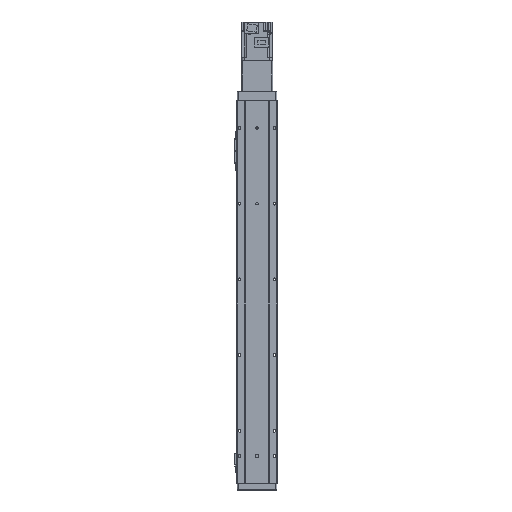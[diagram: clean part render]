
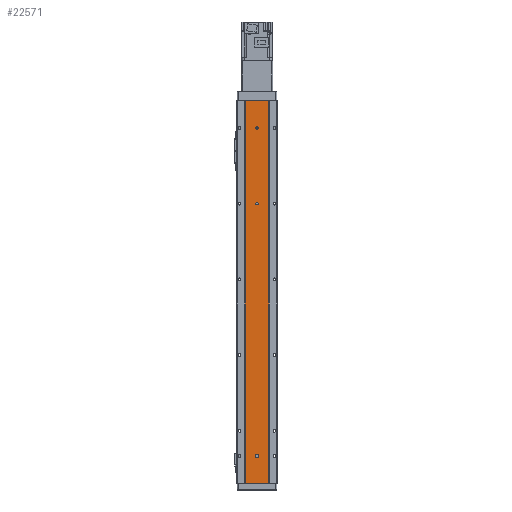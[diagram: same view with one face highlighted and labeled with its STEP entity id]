
A CAD part, front view. The second image highlights one B-rep face of the part: STEP entity #22571.
In plain terms, the highlighted planar face has unit normal (0, -1, 0).
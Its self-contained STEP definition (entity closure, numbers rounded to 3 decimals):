
#3890 = FACE_BOUND ( 'NONE', #28471, .T. ) ;
#3893 = FACE_OUTER_BOUND ( 'NONE', #28475, .T. ) ;
#3896 = FACE_BOUND ( 'NONE', #28465, .T. ) ;
#3897 = FACE_BOUND ( 'NONE', #28470, .T. ) ;
#9000 = CARTESIAN_POINT ( 'NONE',  ( 0., 0.5, -57. ) ) ;
#9006 = CARTESIAN_POINT ( 'NONE',  ( 2.5, 0.5, -705.5 ) ) ;
#9017 = CARTESIAN_POINT ( 'NONE',  ( 0., 0.5, -202. ) ) ;
#9032 = CARTESIAN_POINT ( 'NONE',  ( 0., 0.5, -708. ) ) ;
#9043 = CARTESIAN_POINT ( 'NONE',  ( 0., 0.5, -207. ) ) ;
#9060 = CARTESIAN_POINT ( 'NONE',  ( 0., 0.5, -52. ) ) ;
#9175 = CARTESIAN_POINT ( 'NONE',  ( -2.5, 0.5, -705.5 ) ) ;
#9208 = CARTESIAN_POINT ( 'NONE',  ( 2.5, 0.5, -703.5 ) ) ;
#9221 = CARTESIAN_POINT ( 'NONE',  ( -2.5, 0.5, -703.5 ) ) ;
#10312 = CARTESIAN_POINT ( 'NONE',  ( -23., 0.5, 0. ) ) ;
#10367 = CARTESIAN_POINT ( 'NONE',  ( -23., 0.5, -759. ) ) ;
#10399 = CARTESIAN_POINT ( 'NONE',  ( 23., 0.5, 0. ) ) ;
#10423 = CARTESIAN_POINT ( 'NONE',  ( 23., 0.5, -759. ) ) ;
#11952 = CARTESIAN_POINT ( 'NONE',  ( 0., 0.5, -703.5 ) ) ;
#11963 = DIRECTION ( 'NONE',  ( 0., -1., 0. ) ) ;
#11966 = DIRECTION ( 'NONE',  ( 1., 0., 0. ) ) ;
#11988 = DIRECTION ( 'NONE',  ( 1., 0., 0. ) ) ;
#11995 = CARTESIAN_POINT ( 'NONE',  ( 0., 0.5, -204.5 ) ) ;
#12006 = DIRECTION ( 'NONE',  ( 0., 0., 1. ) ) ;
#12007 = DIRECTION ( 'NONE',  ( 0., 0., 1. ) ) ;
#12008 = CARTESIAN_POINT ( 'NONE',  ( -23., 0.5, -759. ) ) ;
#12020 = DIRECTION ( 'NONE',  ( 0., -1., 0. ) ) ;
#12022 = CARTESIAN_POINT ( 'NONE',  ( 23., 0.5, -759. ) ) ;
#12040 = CARTESIAN_POINT ( 'NONE',  ( -2.5, 0.5, -759. ) ) ;
#12056 = DIRECTION ( 'NONE',  ( 0., 0., -1. ) ) ;
#12077 = CARTESIAN_POINT ( 'NONE',  ( 0., 0.5, -54.5 ) ) ;
#12082 = DIRECTION ( 'NONE',  ( 0., 0., 1. ) ) ;
#12088 = DIRECTION ( 'NONE',  ( 0., -1., 0. ) ) ;
#12095 = DIRECTION ( 'NONE',  ( 1., 0., 0. ) ) ;
#12110 = CARTESIAN_POINT ( 'NONE',  ( 2.5, 0.5, -759. ) ) ;
#12135 = CARTESIAN_POINT ( 'NONE',  ( 0., 0.5, -705.5 ) ) ;
#12151 = DIRECTION ( 'NONE',  ( 0., -1., 0. ) ) ;
#12152 = DIRECTION ( 'NONE',  ( 1., 0., 0. ) ) ;
#13184 = LINE ( 'NONE', #12008, #13193 ) ;
#13193 = VECTOR ( 'NONE', #12007, 1000. ) ;
#13226 = VECTOR ( 'NONE', #12006, 1000. ) ;
#13261 = LINE ( 'NONE', #12022, #13226 ) ;
#13278 = CIRCLE ( 'NONE', #31218, 2.5 ) ;
#13283 = CIRCLE ( 'NONE', #31200, 2.5 ) ;
#13318 = CIRCLE ( 'NONE', #31226, 2.5 ) ;
#13330 = VECTOR ( 'NONE', #12082, 1000. ) ;
#13349 = LINE ( 'NONE', #12040, #13366 ) ;
#13354 = LINE ( 'NONE', #12110, #13330 ) ;
#13366 = VECTOR ( 'NONE', #12056, 1000. ) ;
#13389 = CIRCLE ( 'NONE', #31247, 2.5 ) ;
#18744 = EDGE_CURVE ( 'NONE', #23693, #23671, #37986, .T. ) ;
#18783 = EDGE_CURVE ( 'NONE', #23707, #23698, #37994, .T. ) ;
#18797 = EDGE_CURVE ( 'NONE', #23749, #23700, #38127, .T. ) ;
#18912 = EDGE_CURVE ( 'NONE', #33459, #33498, #38426, .T. ) ;
#18932 = EDGE_CURVE ( 'NONE', #33470, #33521, #38443, .T. ) ;
#22571 = ADVANCED_FACE ( 'NONE', ( #3897, #3890, #3896, #3893 ), #46586, .T. ) ;
#23671 = VERTEX_POINT ( 'NONE', #9006 ) ;
#23693 = VERTEX_POINT ( 'NONE', #9032 ) ;
#23698 = VERTEX_POINT ( 'NONE', #9043 ) ;
#23700 = VERTEX_POINT ( 'NONE', #9000 ) ;
#23707 = VERTEX_POINT ( 'NONE', #9017 ) ;
#23749 = VERTEX_POINT ( 'NONE', #9060 ) ;
#26783 = VERTEX_POINT ( 'NONE', #9175 ) ;
#26808 = VERTEX_POINT ( 'NONE', #9221 ) ;
#26825 = VERTEX_POINT ( 'NONE', #9208 ) ;
#27719 = ORIENTED_EDGE ( 'NONE', *, *, #35704, .T. ) ;
#27742 = ORIENTED_EDGE ( 'NONE', *, *, #35709, .F. ) ;
#27750 = ORIENTED_EDGE ( 'NONE', *, *, #18912, .T. ) ;
#27758 = ORIENTED_EDGE ( 'NONE', *, *, #35739, .F. ) ;
#27760 = ORIENTED_EDGE ( 'NONE', *, *, #35715, .F. ) ;
#27761 = ORIENTED_EDGE ( 'NONE', *, *, #18783, .F. ) ;
#27764 = ORIENTED_EDGE ( 'NONE', *, *, #18932, .F. ) ;
#27767 = ORIENTED_EDGE ( 'NONE', *, *, #35699, .F. ) ;
#27791 = ORIENTED_EDGE ( 'NONE', *, *, #35757, .F. ) ;
#27792 = ORIENTED_EDGE ( 'NONE', *, *, #18744, .F. ) ;
#27797 = ORIENTED_EDGE ( 'NONE', *, *, #35758, .F. ) ;
#27798 = ORIENTED_EDGE ( 'NONE', *, *, #18797, .F. ) ;
#27799 = ORIENTED_EDGE ( 'NONE', *, *, #35749, .F. ) ;
#28465 = EDGE_LOOP ( 'NONE', ( #27799, #27798 ) ) ;
#28470 = EDGE_LOOP ( 'NONE', ( #27797, #27758, #27767, #27791, #27792 ) ) ;
#28471 = EDGE_LOOP ( 'NONE', ( #27760, #27761 ) ) ;
#28475 = EDGE_LOOP ( 'NONE', ( #27764, #27742, #27750, #27719 ) ) ;
#30018 = AXIS2_PLACEMENT_3D ( 'NONE', #46538, #46619, #46599 ) ;
#31200 = AXIS2_PLACEMENT_3D ( 'NONE', #11952, #11963, #11966 ) ;
#31218 = AXIS2_PLACEMENT_3D ( 'NONE', #11995, #12020, #11988 ) ;
#31226 = AXIS2_PLACEMENT_3D ( 'NONE', #12077, #12088, #12095 ) ;
#31247 = AXIS2_PLACEMENT_3D ( 'NONE', #12135, #12151, #12152 ) ;
#33459 = VERTEX_POINT ( 'NONE', #10367 ) ;
#33470 = VERTEX_POINT ( 'NONE', #10312 ) ;
#33498 = VERTEX_POINT ( 'NONE', #10423 ) ;
#33521 = VERTEX_POINT ( 'NONE', #10399 ) ;
#34527 = DIRECTION ( 'NONE',  ( 0., -1., 0. ) ) ;
#34529 = DIRECTION ( 'NONE',  ( 1., 0., 0. ) ) ;
#34540 = CARTESIAN_POINT ( 'NONE',  ( 0., 0.5, -705.5 ) ) ;
#34607 = CARTESIAN_POINT ( 'NONE',  ( 0., 0.5, -204.5 ) ) ;
#34629 = DIRECTION ( 'NONE',  ( 1., 0., 0. ) ) ;
#34636 = DIRECTION ( 'NONE',  ( 0., -1., 0. ) ) ;
#34651 = DIRECTION ( 'NONE',  ( 1., 0., 0. ) ) ;
#34673 = DIRECTION ( 'NONE',  ( 0., -1., 0. ) ) ;
#34674 = CARTESIAN_POINT ( 'NONE',  ( 0., 0.5, -54.5 ) ) ;
#34968 = DIRECTION ( 'NONE',  ( 1., 0., 0. ) ) ;
#34991 = CARTESIAN_POINT ( 'NONE',  ( -23., 0.5, -759. ) ) ;
#35010 = DIRECTION ( 'NONE',  ( 1., 0., 0. ) ) ;
#35016 = CARTESIAN_POINT ( 'NONE',  ( -23., 0.5, 0. ) ) ;
#35699 = EDGE_CURVE ( 'NONE', #26825, #26808, #13283, .T. ) ;
#35704 = EDGE_CURVE ( 'NONE', #33498, #33521, #13261, .T. ) ;
#35709 = EDGE_CURVE ( 'NONE', #33459, #33470, #13184, .T. ) ;
#35715 = EDGE_CURVE ( 'NONE', #23698, #23707, #13278, .T. ) ;
#35739 = EDGE_CURVE ( 'NONE', #26808, #26783, #13349, .T. ) ;
#35749 = EDGE_CURVE ( 'NONE', #23700, #23749, #13318, .T. ) ;
#35757 = EDGE_CURVE ( 'NONE', #23671, #26825, #13354, .T. ) ;
#35758 = EDGE_CURVE ( 'NONE', #26783, #23693, #13389, .T. ) ;
#37986 = CIRCLE ( 'NONE', #38210, 2.5 ) ;
#37994 = CIRCLE ( 'NONE', #38120, 2.5 ) ;
#38120 = AXIS2_PLACEMENT_3D ( 'NONE', #34607, #34636, #34629 ) ;
#38127 = CIRCLE ( 'NONE', #38145, 2.5 ) ;
#38145 = AXIS2_PLACEMENT_3D ( 'NONE', #34674, #34673, #34651 ) ;
#38210 = AXIS2_PLACEMENT_3D ( 'NONE', #34540, #34527, #34529 ) ;
#38334 = VECTOR ( 'NONE', #34968, 1000. ) ;
#38426 = LINE ( 'NONE', #34991, #38334 ) ;
#38443 = LINE ( 'NONE', #35016, #38445 ) ;
#38445 = VECTOR ( 'NONE', #35010, 1000. ) ;
#46538 = CARTESIAN_POINT ( 'NONE',  ( -23., 0.5, -759. ) ) ;
#46586 = PLANE ( 'NONE',  #30018 ) ;
#46599 = DIRECTION ( 'NONE',  ( 1., 0., 0. ) ) ;
#46619 = DIRECTION ( 'NONE',  ( 0., -1., 0. ) ) ;
